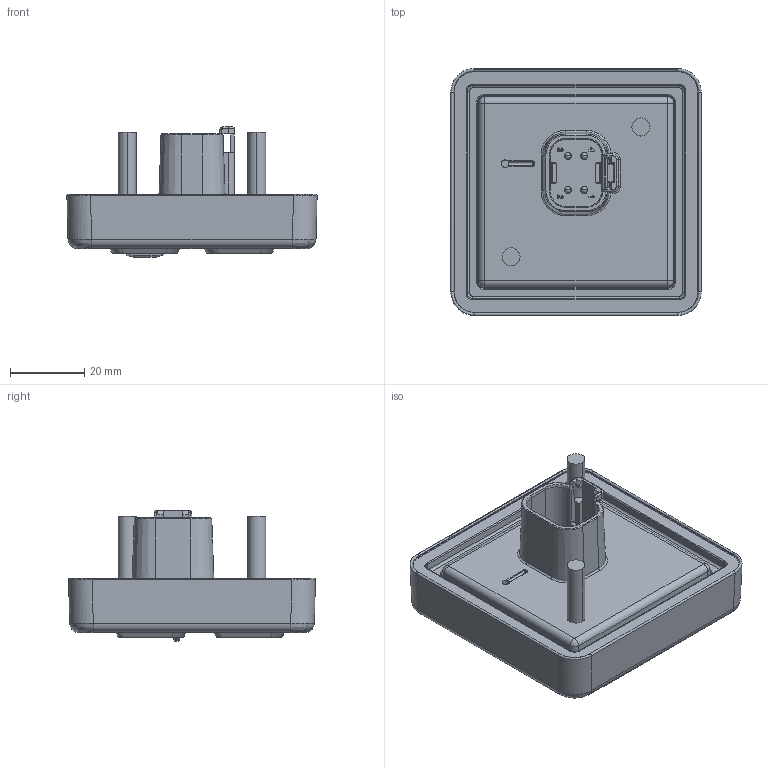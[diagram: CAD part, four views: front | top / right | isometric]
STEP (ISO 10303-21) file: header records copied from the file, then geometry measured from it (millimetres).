
FILE_DESCRIPTION (( 'STEP AP214' ), '1' );
FILE_NAME ('CL-6022_2X2_05MAR2025.STEP', '2025-03-05T17:55:59', ( '' ), ( '' ), 'SwSTEP 2.0', 'SolidWorks 2024', '' );
FILE_SCHEMA (( 'AUTOMOTIVE_DESIGN' ));
Length unit declared in the file: inch
Products named in the file (14): 186-22-600_02; PM-062-400-G; 175-0314-S0-G_PIN; CL-6022_2X2_05MAR2025; 171-02-624; 175-0314-S0-G; CL-6022-501; CL-6022-500; 186-22-600; 485-15-604; 415-11-618; 186-22-600_01; CL-6022-502
Assembly tree (16 placements, depth 4):
  CL-6022_2X2_05MAR2025
    186-22-600
      186-22-600_01
      186-22-600_02
    PM-062-400-G
      175-0314-S0-G
        175-0314-S0-G
        175-0314-S0-G_PIN  x4
    CL-6022-502
      CL-6022-500
        CL-6022-501
        415-11-618  x2
      485-15-604
  171-02-624
Bounding box: 67.29 x 66.4 x 35 mm (x, y, z)
Volume: 39742.5 mm3; surface area: 39357.3 mm2
Topology: 12 solids, 14 shells, 4082 faces, 10156 edges, 6146 vertices
Faces by surface type: plane 1289, cylinder 1133, bspline 752, cone 470, torus 274, sphere 164
Entity records: 133478 total; most frequent: CARTESIAN_POINT 45484, ORIENTED_EDGE 19280, DIRECTION 17560, EDGE_CURVE 9640, AXIS2_PLACEMENT_3D 6491, VERTEX_POINT 5860, VECTOR 4578, LINE 4578
